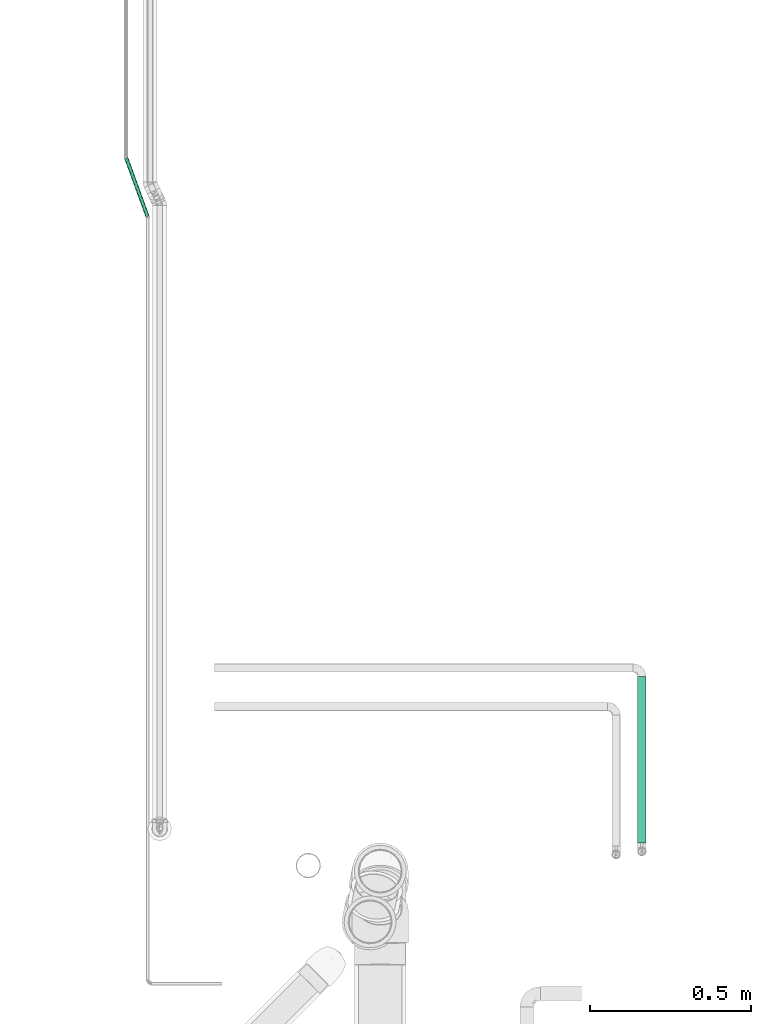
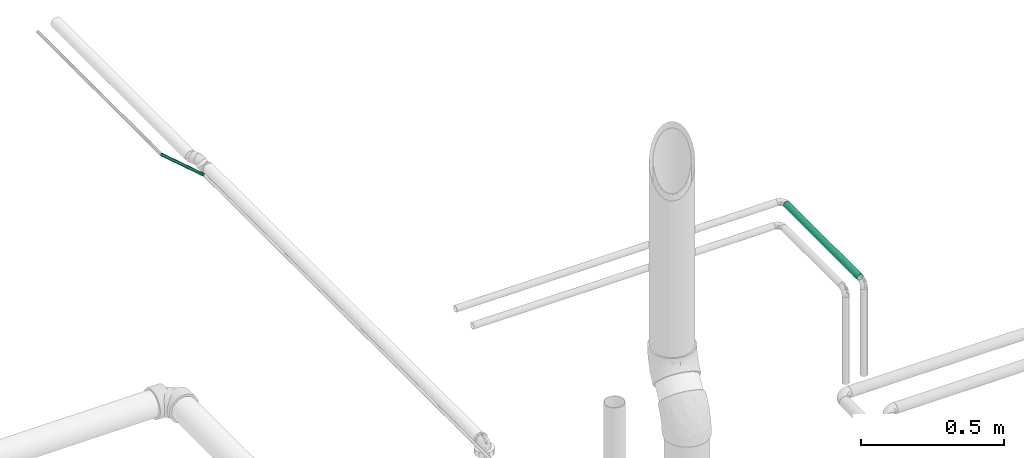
# One storey, part 62 of 156: 2 flow segments.
"""IFC2X3 building model written with IfcOpenShell, lengths in millimetres."""

import ifcopenshell
import ifcopenshell.guid

model = None  # the IFC model being written
_history = None  # IfcOwnerHistory: only IFC2X3 demands one
_inside = {}  # id of a spatial element -> (the spatial element, [elements in it])
_under = {}  # id of a project, library or spatial element -> (it, [spatial elements below it])
_declared = {}  # id of a project -> (the project, [libraries it declares])
_typed = {}  # id of a type object -> (the type object, [elements of that type])
_made_of = {}  # id of a material, layer set ... -> (it, [elements and type objects made of it])


def new_model(schema):
    """Start an empty IFC model of exactly this schema.

    Asked for "IFC4X3", IfcOpenShell would pick the latest addendum, in which some entities
    have other attributes; the version numbers below select the first issue.
    IFC2X3 requires an IfcOwnerHistory on every rooted entity: one is made here for all.
    """
    global model, _history
    if schema == "IFC4X3":
        model = ifcopenshell.file(schema_version=(4, 3, 0, 0))
    else:
        model = ifcopenshell.file(schema=schema)
    _inside.clear()
    _under.clear()
    _declared.clear()
    _typed.clear()
    _made_of.clear()
    _history = None
    if model.schema == "IFC2X3":
        org = make("IfcOrganization", Name="unknown")
        user = make(
            "IfcPersonAndOrganization",
            ThePerson=make("IfcPerson", FamilyName="unknown"),
            TheOrganization=org,
        )
        app = make(
            "IfcApplication",
            ApplicationDeveloper=org,
            Version="unknown",
            ApplicationFullName="unknown",
            ApplicationIdentifier="unknown",
        )
        _history = make(
            "IfcOwnerHistory",
            OwningUser=user,
            OwningApplication=app,
            ChangeAction="ADDED",
            CreationDate=0,
        )
    return model


def make(cls, **values):
    """One entity of the class cls with the attributes given. An attribute that is None is left unset."""
    return model.create_entity(
        cls, **{name: value for name, value in values.items() if value is not None}
    )


def entity(cls, *values):
    """Any entity or typed value of the class cls, its attributes in the order of the schema. None: left unset."""
    e = model.create_entity(cls)
    for i, value in enumerate(values):
        if value is not None:
            e[i] = value
    return e


def rooted(cls, **values):
    """An entity with a GlobalId (a new one), such as an element, a storey or a relation."""
    return make(cls, GlobalId=ifcopenshell.guid.new(), OwnerHistory=_history, **values)


def si_unit(unit_type, name, prefix=None):
    """IfcSIUnit, for example si_unit("LENGTHUNIT", "METRE", prefix="MILLI")."""
    return make("IfcSIUnit", UnitType=unit_type, Prefix=prefix, Name=name)


def converted_unit(unit_type, name, factor, base, dimensions=None, offset=None):
    """IfcConversionBasedUnit, such as the inch: factor (a typed value) times the base unit."""
    return make(
        "IfcConversionBasedUnit"
        if offset is None
        else "IfcConversionBasedUnitWithOffset",
        ConversionOffset=offset,
        Dimensions=None
        if dimensions is None
        else entity("IfcDimensionalExponents", *dimensions),
        UnitType=unit_type,
        Name=name,
        ConversionFactor=make(
            "IfcMeasureWithUnit", ValueComponent=factor, UnitComponent=base
        ),
    )


def derived_unit(unit_type, elements):
    """IfcDerivedUnit: a product of units, each with its exponent."""
    return make(
        "IfcDerivedUnit",
        Elements=[
            make("IfcDerivedUnitElement", Unit=unit, Exponent=power)
            for unit, power in elements
        ],
        UnitType=unit_type,
    )


def assignment(units):
    """IfcUnitAssignment: the units of a project."""
    return None if units is None else make("IfcUnitAssignment", Units=units)


def point(xyz):
    """IfcCartesianPoint."""
    return None if xyz is None else make("IfcCartesianPoint", Coordinates=xyz)


def direction(xyz):
    """IfcDirection."""
    return None if xyz is None else make("IfcDirection", DirectionRatios=xyz)


def frame(location, z_axis=None, x_axis=None):
    """IfcAxis2Placement3D, a coordinate frame: its origin and axes. An axis left out is left unset."""
    return make(
        "IfcAxis2Placement3D",
        Location=point(location),
        Axis=direction(z_axis),
        RefDirection=direction(x_axis),
    )


def frame_2d(location, x_axis=None):
    """IfcAxis2Placement2D, a coordinate frame in the plane: its origin and x axis."""
    return make(
        "IfcAxis2Placement2D", Location=point(location), RefDirection=direction(x_axis)
    )


def origin_with_axes():
    """The frame at (0, 0, 0) with the z axis (0, 0, 1) and the x axis (1, 0, 0) written out."""
    return frame((0.0, 0.0, 0.0), z_axis=(0.0, 0.0, 1.0), x_axis=(1.0, 0.0, 0.0))


def origin_2d_with_axis():
    """The frame at (0, 0) in the plane with the x axis (1, 0) written out."""
    return frame_2d((0.0, 0.0), x_axis=(1.0, 0.0))


def place(relative_to, where):
    """IfcLocalPlacement: puts the frame where relative to a parent placement (None: the world)."""
    return make(
        "IfcLocalPlacement", PlacementRelTo=relative_to, RelativePlacement=where
    )


def context(
    kind, dimensions, precision=None, world=None, true_north=None, identifier=None
):
    """IfcGeometricRepresentationContext, for example the 3D "Model" context."""
    return make(
        "IfcGeometricRepresentationContext",
        ContextIdentifier=identifier,
        ContextType=kind,
        CoordinateSpaceDimension=dimensions,
        Precision=precision,
        WorldCoordinateSystem=world,
        TrueNorth=true_north,
    )


def subcontext(parent, identifier, kind, view, scale=None):
    """IfcGeometricRepresentationSubContext, for example "Body" below "Model"."""
    return make(
        "IfcGeometricRepresentationSubContext",
        ContextIdentifier=identifier,
        ContextType=kind,
        ParentContext=parent,
        TargetScale=scale,
        TargetView=view,
    )


def project(units=None, contexts=None):
    """IfcProject with its units and contexts."""
    return rooted(
        "IfcProject",
        Name="project",
        RepresentationContexts=contexts,
        UnitsInContext=assignment(units),
    )


def spatial(cls, under=None, at=None, **own):
    """A site, building, storey or space (cls), placed at a placement, below another one or the project."""
    s = rooted(cls, ObjectPlacement=at, **own)
    if under is not None:
        _under.setdefault(under.id(), (under, []))[1].append(s)
    return s


def profile(cls, at=None, kind="AREA", **sizes):
    """A parametric profile (cls). Its sizes go by their IFC names, for example OverallWidth=200.0."""
    return make(cls, ProfileType=kind, Position=at, **sizes)


def hollow_circle(**sizes):
    """IfcCircleHollowProfileDef."""
    return profile("IfcCircleHollowProfileDef", **sizes)


def extrude(swept, where, along, depth):
    """IfcExtrudedAreaSolid: the profile swept, set in the frame where, extruded along a direction by depth."""
    return make(
        "IfcExtrudedAreaSolid",
        SweptArea=swept,
        Position=where,
        ExtrudedDirection=direction(along),
        Depth=depth,
    )


def shape(context_of_items, identifier, shape_type, items):
    """IfcShapeRepresentation: the items that make up one representation, for example the "Body"."""
    return make(
        "IfcShapeRepresentation",
        ContextOfItems=context_of_items,
        RepresentationIdentifier=identifier,
        RepresentationType=shape_type,
        Items=items,
    )


def source(mapping_origin, context_of_items, identifier, shape_type, items):
    """IfcRepresentationMap: a shape defined once, which mapped items show again and again."""
    return make(
        "IfcRepresentationMap",
        MappingOrigin=mapping_origin,
        MappedRepresentation=shape(context_of_items, identifier, shape_type, items),
    )


def transform(
    local_origin,
    x_axis=None,
    y_axis=None,
    z_axis=None,
    scale=None,
    scale2=None,
    scale3=None,
    uniform=True,
):
    """IfcCartesianTransformationOperator3D, or its non-uniform kind. x_axis, y_axis, z_axis: its Axis1, 2, 3."""
    if uniform:
        return make(
            "IfcCartesianTransformationOperator3D",
            Axis1=direction(x_axis),
            Axis2=direction(y_axis),
            LocalOrigin=point(local_origin),
            Scale=scale,
            Axis3=direction(z_axis),
        )
    return make(
        "IfcCartesianTransformationOperator3DnonUniform",
        Axis1=direction(x_axis),
        Axis2=direction(y_axis),
        LocalOrigin=point(local_origin),
        Scale=scale,
        Axis3=direction(z_axis),
        Scale2=scale2,
        Scale3=scale3,
    )


def mapped(mapping_source, mapping_target):
    """IfcMappedItem: shows the shape of a source again, moved by a transform."""
    return make(
        "IfcMappedItem", MappingSource=mapping_source, MappingTarget=mapping_target
    )


def made_of(thing, what):
    """Note that an element or type object is made of a material, layer set ...; save() writes the relation."""
    if what is not None:
        _made_of.setdefault(what.id(), (what, []))[1].append(thing)
    return thing


def type_object(cls, material=None, **own):
    """A type object (cls), such as IfcWallType, which elements share."""
    return made_of(rooted(cls, **own), material)


def element(
    cls,
    number,
    at=None,
    inside=None,
    cuts=None,
    type_object=None,
    material=None,
    context=None,
    identifier="Body",
    shape_type=None,
    held_by="IfcProductDefinitionShape",
    body=None,
    shapes=None,
    **own,
):
    """One element of the class cls, such as IfcWall. Its Tag is "e" and its number.

    at: its placement. inside: the storey or other place that contains it. cuts: it is an
    opening in that element (IfcRelVoidsElement). A single representation is given by context,
    identifier, shape_type and body (its items); several are given by shapes. held_by: the class
    of the entity that holds the representations. save() writes the other relations.
    """
    e = rooted(cls, Tag="e%d" % number, ObjectPlacement=at, **own)
    if body is not None:
        shapes = [shape(context, identifier, shape_type, body)]
    if shapes is not None:
        e.Representation = make(held_by, Representations=shapes)
    if inside is not None:
        _inside.setdefault(inside.id(), (inside, []))[1].append(e)
    if cuts is not None:
        rooted(
            "IfcRelVoidsElement", RelatingBuildingElement=cuts, RelatedOpeningElement=e
        )
    if type_object is not None:
        _typed.setdefault(type_object.id(), (type_object, []))[1].append(e)
    return made_of(e, material)


def aggregate(whole, parts):
    """IfcRelAggregates: a whole, such as a stair, and the parts it consists of."""
    return rooted("IfcRelAggregates", RelatingObject=whole, RelatedObjects=parts)


def save(model, path):
    """Write the relations noted so far, then the file.

    IfcRelAggregates (storeys below a building ...), IfcRelContainedInSpatialStructure (elements
    in a storey), IfcRelDefinesByType, IfcRelAssociatesMaterial and IfcRelDeclares: one each for
    every whole, place, type object, material and project.
    """
    for whole, parts in _under.values():
        aggregate(whole, parts)
    for where, things in _inside.values():
        rooted(
            "IfcRelContainedInSpatialStructure",
            RelatedElements=things,
            RelatingStructure=where,
        )
    for kind, things in _typed.values():
        rooted("IfcRelDefinesByType", RelatedObjects=things, RelatingType=kind)
    for what, things in _made_of.values():
        rooted("IfcRelAssociatesMaterial", RelatedObjects=things, RelatingMaterial=what)
    for by, libraries in _declared.values():
        rooted("IfcRelDeclares", RelatingContext=by, RelatedDefinitions=libraries)
    model.write(path)


model = new_model("IFC2X3")

# Units and contexts
model_context = context("Model", 3, precision=0.01, world=frame((0.0, 4.29681676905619e-09, 0.0)), true_north=direction((4.01073788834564e-13, 1.0)))
plan_context = context("Plan", 3, precision=0.01, world=frame((0.0, 4.29681676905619e-09, 0.0)), true_north=direction((4.01073788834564e-13, 1.0)))
body_context = subcontext(model_context, "Body", "Model", "MODEL_VIEW")
ifc_project = project(units=[converted_unit("PLANEANGLEUNIT", "DEGREE", entity("IfcPositiveLengthMeasure", 0.0174532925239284), si_unit("PLANEANGLEUNIT", "RADIAN"), dimensions=[0, 0, 0, 0, 0, 0, 0]), si_unit("AREAUNIT", "SQUARE_METRE"), si_unit("LENGTHUNIT", "METRE", prefix="MILLI"), si_unit("MASSUNIT", "GRAM", prefix="KILO"), si_unit("POWERUNIT", "WATT"), si_unit("PRESSUREUNIT", "PASCAL", prefix="KILO"), si_unit("FORCEUNIT", "NEWTON", prefix="KILO"), si_unit("ELECTRICVOLTAGEUNIT", "VOLT"), si_unit("ELECTRICCURRENTUNIT", "AMPERE"), si_unit("THERMODYNAMICTEMPERATUREUNIT", "DEGREE_CELSIUS"), si_unit("TIMEUNIT", "SECOND"), si_unit("VOLUMEUNIT", "CUBIC_METRE"), derived_unit("LINEARVELOCITYUNIT", [(si_unit("LENGTHUNIT", "METRE"), 1), (si_unit("TIMEUNIT", "SECOND"), -1)]), derived_unit("VOLUMETRICFLOWRATEUNIT", [(si_unit("VOLUMEUNIT", "CUBIC_METRE"), 1), (si_unit("TIMEUNIT", "SECOND"), -1)]), derived_unit("THERMALTRANSMITTANCEUNIT", [(si_unit("POWERUNIT", "WATT"), 1), (si_unit("THERMODYNAMICTEMPERATUREUNIT", "KELVIN"), -1), (si_unit("AREAUNIT", "SQUARE_METRE"), -1)]), derived_unit("SOUNDPRESSUREUNIT", [(si_unit("PRESSUREUNIT", "PASCAL"), 1)])], contexts=[model_context, plan_context])

# Site, building, storey
site_placement = place(None, frame((0.0, -4.29681676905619e-09, 0.0), z_axis=(0.0, 0.0, 1.0), x_axis=(1.0, 0.0, 0.0)))
site = spatial("IfcSite", under=ifc_project, at=site_placement, CompositionType="ELEMENT")
building_placement = place(site_placement, frame((0.0, 4.29681676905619e-09, 0.0), z_axis=(0.0, 0.0, 1.0), x_axis=(1.0, 0.0, 0.0)))
building = spatial("IfcBuilding", under=site, at=building_placement, Name="mc-building", CompositionType="ELEMENT")
storey_placement = place(building_placement, frame((0.0, 0.0, 205200.0), z_axis=(0.0, 0.0, 1.0), x_axis=(1.0, 0.0, 0.0)))
storey = spatial("IfcBuildingStorey", under=building, at=storey_placement, Name="Nivå D + 1,2 m", CompositionType="ELEMENT", Elevation=205200.0)

# Flow segments
pipe_segment_type_1 = type_object("IfcPipeSegmentType", Name="Stålrør normaltykke", PredefinedType="RIGIDSEGMENT")
shared_shape_1 = source(origin_with_axes(), body_context, "Body", "SweptSolid", [
    extrude(hollow_circle(Radius=13.3, WallThickness=2.0, at=origin_2d_with_axis()), frame((0.0, 0.0, 0.0), z_axis=(1.0, 0.0, 0.0), x_axis=(0.0, 1.0, 0.0)), (0.0, 0.0, 1.0), 516.4),
])
flow_segment_1_placement = place(storey_placement, frame((325120.9735, 465020.21094, 4400.0), z_axis=(0.0, 0.0, 1.0), x_axis=(0.0, -1.0, 0.0)))
element("IfcFlowSegment", 1, at=flow_segment_1_placement, inside=storey, type_object=pipe_segment_type_1, Name="Stålrør normaltykke", context=body_context, shape_type="MappedRepresentation", body=[
    mapped(shared_shape_1, transform((0.0, 0.0, 0.0), scale=1.0)),
])
pipe_segment_type_2 = type_object("IfcPipeSegmentType", Name="Kobberrør", PredefinedType="RIGIDSEGMENT")
shared_shape_2 = source(origin_with_axes(), body_context, "Body", "SweptSolid", [
    extrude(hollow_circle(Radius=6.0, WallThickness=2.0, at=origin_2d_with_axis()), frame((0.0, 0.0, 0.0), z_axis=(1.0, 0.0, 0.0), x_axis=(0.0, 1.0, 0.0)), (0.0, 0.0, 1.0), 194.2),
])
flow_segment_2_placement = place(storey_placement, frame((323519.74706, 466630.9679, 4196.25), z_axis=(0.0, 0.0, 1.0), x_axis=(0.342019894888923, -0.939692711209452, 0.0)))
element("IfcFlowSegment", 2, at=flow_segment_2_placement, inside=storey, type_object=pipe_segment_type_2, Name="Kobberrør", context=body_context, shape_type="MappedRepresentation", body=[
    mapped(shared_shape_2, transform((0.0, 0.0, 0.0), scale=1.0)),
])

save(model, "model.ifc")
